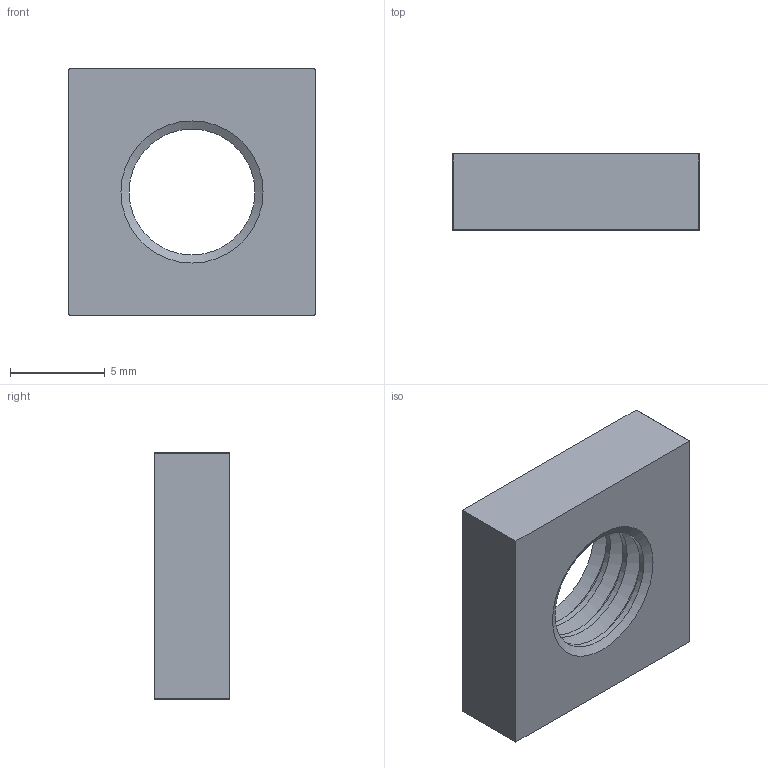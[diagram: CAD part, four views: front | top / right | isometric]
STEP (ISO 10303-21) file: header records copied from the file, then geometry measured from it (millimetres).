
FILE_DESCRIPTION((''),'2;1');
FILE_NAME('C:\Documents and Settings\Administrator\My Documents\Andys Backup Data\STEP LIBRARIES\MINITEC STEP LIBRARIES\30 SERIES\21.9180_1 M8 Square Econo-Nut 30 SS.stp','2012-02-16T11:23:22',('Administrator'),(''),'Autodesk Inventor 2009','Autodesk Inventor 2009','');
FILE_SCHEMA(('AUTOMOTIVE_DESIGN { 1 0 10303 214 1 1 1 1 }'));
Length unit declared in the file: millimetre
Products named in the file (1): 21.9180_1 M8 Square Econo-Nut 30 SS
Bounding box: 13 x 4 x 13 mm (x, y, z)
Volume: 511 mm3; surface area: 617.2 mm2
Topology: 1 solids, 1 shells, 23 faces, 57 edges, 36 vertices
Faces by surface type: cylinder 10, cone 7, plane 6
Full cylindrical faces by diameter (mm): 6.647 x3, 8 x3
Entity records: 596 total; most frequent: DIRECTION 108, CARTESIAN_POINT 92, ORIENTED_EDGE 76, AXIS2_PLACEMENT_3D 46, EDGE_CURVE 38, EDGE_LOOP 38, VERTEX_POINT 30, FACE_OUTER_BOUND 23
